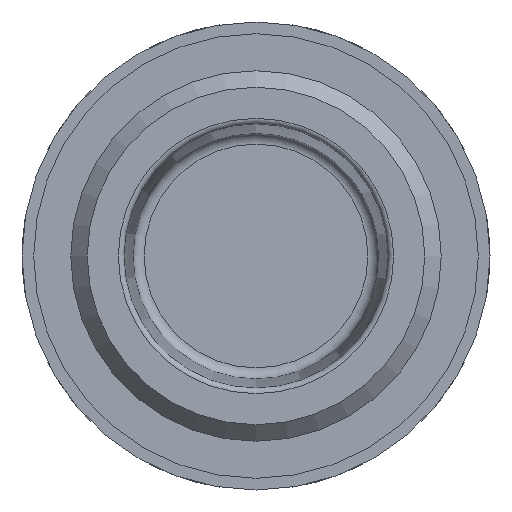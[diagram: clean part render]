
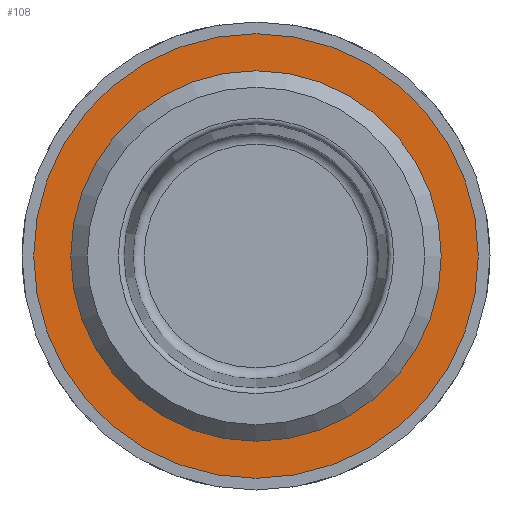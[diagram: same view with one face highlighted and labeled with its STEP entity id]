
A CAD part, left-side view. The second image highlights one B-rep face of the part: STEP entity #108.
In plain terms, the highlighted planar face has unit normal (-1, 0, 0).
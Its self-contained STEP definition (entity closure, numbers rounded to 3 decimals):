
#108 = ADVANCED_FACE( '', ( #200, #201 ), #202, .T. );
#200 = FACE_BOUND( '', #326, .T. );
#201 = FACE_OUTER_BOUND( '', #327, .T. );
#202 = PLANE( '', #328 );
#326 = EDGE_LOOP( '', ( #611 ) );
#327 = EDGE_LOOP( '', ( #612 ) );
#328 = AXIS2_PLACEMENT_3D( '', #613, #614, #615 );
#611 = ORIENTED_EDGE( '', *, *, #924, .T. );
#612 = ORIENTED_EDGE( '', *, *, #925, .F. );
#613 = CARTESIAN_POINT( '', ( 11.7, 19.95, 0. ) );
#614 = DIRECTION( '', ( -1., 0., 0. ) );
#615 = DIRECTION( '', ( 0., 0., 1. ) );
#924 = EDGE_CURVE( '', #1140, #1140, #1141, .T. );
#925 = EDGE_CURVE( '', #1142, #1142, #1143, .T. );
#1140 = VERTEX_POINT( '', #1488 );
#1141 = CIRCLE( '', #1489, 16.625 );
#1142 = VERTEX_POINT( '', #1490 );
#1143 = CIRCLE( '', #1491, 19.95 );
#1488 = CARTESIAN_POINT( '', ( 11.7, 0., -16.625 ) );
#1489 = AXIS2_PLACEMENT_3D( '', #1662, #1663, #1664 );
#1490 = CARTESIAN_POINT( '', ( 11.7, 0., -19.95 ) );
#1491 = AXIS2_PLACEMENT_3D( '', #1665, #1666, #1667 );
#1662 = CARTESIAN_POINT( '', ( 11.7, 0., 0. ) );
#1663 = DIRECTION( '', ( 1., 0., 0. ) );
#1664 = DIRECTION( '', ( 0., 0., -1. ) );
#1665 = CARTESIAN_POINT( '', ( 11.7, 0., 0. ) );
#1666 = DIRECTION( '', ( 1., 0., 0. ) );
#1667 = DIRECTION( '', ( 0., 0., -1. ) );
